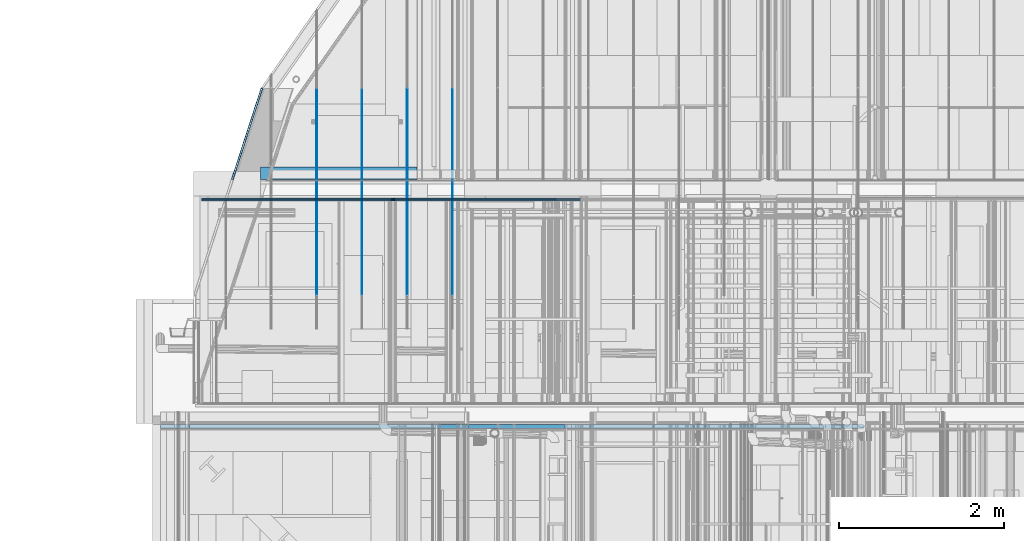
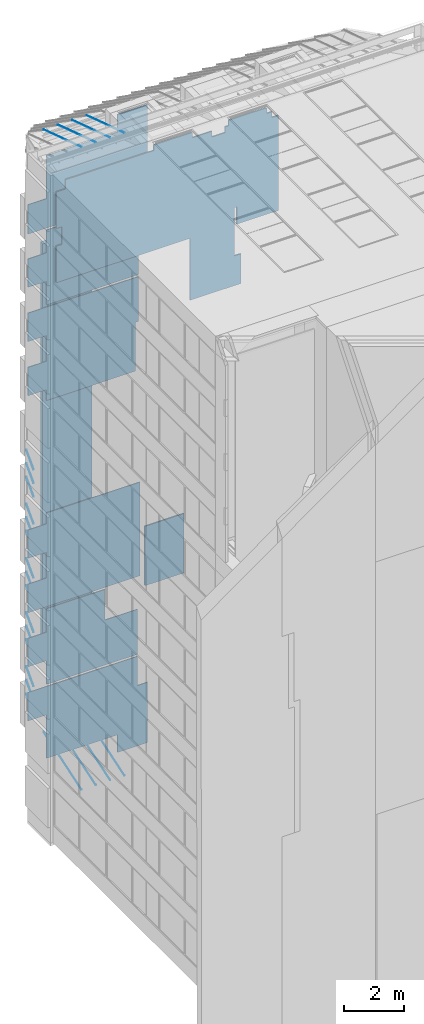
# One storey, part 263 of 583: 38 slabs.
"""IFC2X3 building model written with IfcOpenShell, lengths in metres."""

import ifcopenshell
import ifcopenshell.guid

model = None  # the IFC model being written
_history = None  # IfcOwnerHistory: only IFC2X3 demands one
_inside = {}  # id of a spatial element -> (the spatial element, [elements in it])
_under = {}  # id of a project, library or spatial element -> (it, [spatial elements below it])
_declared = {}  # id of a project -> (the project, [libraries it declares])
_typed = {}  # id of a type object -> (the type object, [elements of that type])
_made_of = {}  # id of a material, layer set ... -> (it, [elements and type objects made of it])


def new_model(schema):
    """Start an empty IFC model of exactly this schema.

    Asked for "IFC4X3", IfcOpenShell would pick the latest addendum, in which some entities
    have other attributes; the version numbers below select the first issue.
    IFC2X3 requires an IfcOwnerHistory on every rooted entity: one is made here for all.
    """
    global model, _history
    if schema == "IFC4X3":
        model = ifcopenshell.file(schema_version=(4, 3, 0, 0))
    else:
        model = ifcopenshell.file(schema=schema)
    _inside.clear()
    _under.clear()
    _declared.clear()
    _typed.clear()
    _made_of.clear()
    _history = None
    if model.schema == "IFC2X3":
        org = make("IfcOrganization", Name="unknown")
        user = make(
            "IfcPersonAndOrganization",
            ThePerson=make("IfcPerson", FamilyName="unknown"),
            TheOrganization=org,
        )
        app = make(
            "IfcApplication",
            ApplicationDeveloper=org,
            Version="unknown",
            ApplicationFullName="unknown",
            ApplicationIdentifier="unknown",
        )
        _history = make(
            "IfcOwnerHistory",
            OwningUser=user,
            OwningApplication=app,
            ChangeAction="ADDED",
            CreationDate=0,
        )
    return model


def make(cls, **values):
    """One entity of the class cls with the attributes given. An attribute that is None is left unset."""
    return model.create_entity(
        cls, **{name: value for name, value in values.items() if value is not None}
    )


def entity(cls, *values):
    """Any entity or typed value of the class cls, its attributes in the order of the schema. None: left unset."""
    e = model.create_entity(cls)
    for i, value in enumerate(values):
        if value is not None:
            e[i] = value
    return e


def rooted(cls, **values):
    """An entity with a GlobalId (a new one), such as an element, a storey or a relation."""
    return make(cls, GlobalId=ifcopenshell.guid.new(), OwnerHistory=_history, **values)


def si_unit(unit_type, name, prefix=None):
    """IfcSIUnit, for example si_unit("LENGTHUNIT", "METRE", prefix="MILLI")."""
    return make("IfcSIUnit", UnitType=unit_type, Prefix=prefix, Name=name)


def converted_unit(unit_type, name, factor, base, dimensions=None, offset=None):
    """IfcConversionBasedUnit, such as the inch: factor (a typed value) times the base unit."""
    return make(
        "IfcConversionBasedUnit"
        if offset is None
        else "IfcConversionBasedUnitWithOffset",
        ConversionOffset=offset,
        Dimensions=None
        if dimensions is None
        else entity("IfcDimensionalExponents", *dimensions),
        UnitType=unit_type,
        Name=name,
        ConversionFactor=make(
            "IfcMeasureWithUnit", ValueComponent=factor, UnitComponent=base
        ),
    )


def derived_unit(unit_type, elements):
    """IfcDerivedUnit: a product of units, each with its exponent."""
    return make(
        "IfcDerivedUnit",
        Elements=[
            make("IfcDerivedUnitElement", Unit=unit, Exponent=power)
            for unit, power in elements
        ],
        UnitType=unit_type,
    )


def money_unit(currency):
    """IfcMonetaryUnit."""
    return make("IfcMonetaryUnit", Currency=currency)


def assignment(units):
    """IfcUnitAssignment: the units of a project."""
    return None if units is None else make("IfcUnitAssignment", Units=units)


def point(xyz):
    """IfcCartesianPoint."""
    return None if xyz is None else make("IfcCartesianPoint", Coordinates=xyz)


def direction(xyz):
    """IfcDirection."""
    return None if xyz is None else make("IfcDirection", DirectionRatios=xyz)


def frame(location, z_axis=None, x_axis=None):
    """IfcAxis2Placement3D, a coordinate frame: its origin and axes. An axis left out is left unset."""
    return make(
        "IfcAxis2Placement3D",
        Location=point(location),
        Axis=direction(z_axis),
        RefDirection=direction(x_axis),
    )


def origin_with_axes():
    """The frame at (0, 0, 0) with the z axis (0, 0, 1) and the x axis (1, 0, 0) written out."""
    return frame((0.0, 0.0, 0.0), z_axis=(0.0, 0.0, 1.0), x_axis=(1.0, 0.0, 0.0))


def place(relative_to, where):
    """IfcLocalPlacement: puts the frame where relative to a parent placement (None: the world)."""
    return make(
        "IfcLocalPlacement", PlacementRelTo=relative_to, RelativePlacement=where
    )


def context(
    kind, dimensions, precision=None, world=None, true_north=None, identifier=None
):
    """IfcGeometricRepresentationContext, for example the 3D "Model" context."""
    return make(
        "IfcGeometricRepresentationContext",
        ContextIdentifier=identifier,
        ContextType=kind,
        CoordinateSpaceDimension=dimensions,
        Precision=precision,
        WorldCoordinateSystem=world,
        TrueNorth=true_north,
    )


def subcontext(parent, identifier, kind, view, scale=None):
    """IfcGeometricRepresentationSubContext, for example "Body" below "Model"."""
    return make(
        "IfcGeometricRepresentationSubContext",
        ContextIdentifier=identifier,
        ContextType=kind,
        ParentContext=parent,
        TargetScale=scale,
        TargetView=view,
    )


def project(units=None, contexts=None):
    """IfcProject with its units and contexts."""
    return rooted(
        "IfcProject",
        Name="project",
        RepresentationContexts=contexts,
        UnitsInContext=assignment(units),
    )


def spatial(cls, under=None, at=None, **own):
    """A site, building, storey or space (cls), placed at a placement, below another one or the project."""
    s = rooted(cls, ObjectPlacement=at, **own)
    if under is not None:
        _under.setdefault(under.id(), (under, []))[1].append(s)
    return s


def faces_of(points, faces, orient=None, outer=None):
    """IfcFace entities. A face is a list of loops; a loop is a list of indices into points, from 0.

    orient and outer hold one flag for each loop. By default every Orientation is true, the
    first loop of a face is its IfcFaceOuterBound and the others are IfcFaceBound.
    """
    made = []
    for i, loops in enumerate(faces):
        bounds = []
        for j, loop in enumerate(loops):
            is_outer = j == 0 if outer is None else outer[i][j]
            bounds.append(
                make(
                    "IfcFaceOuterBound" if is_outer else "IfcFaceBound",
                    Bound=make("IfcPolyLoop", Polygon=[points[k] for k in loop]),
                    Orientation=True if orient is None else orient[i][j],
                )
            )
        made.append(make("IfcFace", Bounds=bounds))
    return made


def faceted_brep(points, faces, orient=None, outer=None, voids=None):
    """IfcFacetedBrep: a solid bounded by flat faces; with voids (closed shells), ...WithVoids."""
    shared = [point(p) for p in points]
    hull = make("IfcClosedShell", CfsFaces=faces_of(shared, faces, orient, outer))
    if voids is None:
        return make("IfcFacetedBrep", Outer=hull)
    return make(
        "IfcFacetedBrepWithVoids",
        Outer=hull,
        Voids=[
            make(cls, CfsFaces=faces_of(shared, fs, o, b)) for cls, fs, o, b in voids
        ],
    )


def shape(context_of_items, identifier, shape_type, items):
    """IfcShapeRepresentation: the items that make up one representation, for example the "Body"."""
    return make(
        "IfcShapeRepresentation",
        ContextOfItems=context_of_items,
        RepresentationIdentifier=identifier,
        RepresentationType=shape_type,
        Items=items,
    )


def material(Name=None, Category=None):
    """IfcMaterial."""
    return make("IfcMaterial", Name=Name, Category=Category)


def made_of(thing, what):
    """Note that an element or type object is made of a material, layer set ...; save() writes the relation."""
    if what is not None:
        _made_of.setdefault(what.id(), (what, []))[1].append(thing)
    return thing


def type_object(cls, material=None, **own):
    """A type object (cls), such as IfcWallType, which elements share."""
    return made_of(rooted(cls, **own), material)


def element(
    cls,
    number,
    at=None,
    inside=None,
    cuts=None,
    type_object=None,
    material=None,
    context=None,
    identifier="Body",
    shape_type=None,
    held_by="IfcProductDefinitionShape",
    body=None,
    shapes=None,
    **own,
):
    """One element of the class cls, such as IfcWall. Its Tag is "e" and its number.

    at: its placement. inside: the storey or other place that contains it. cuts: it is an
    opening in that element (IfcRelVoidsElement). A single representation is given by context,
    identifier, shape_type and body (its items); several are given by shapes. held_by: the class
    of the entity that holds the representations. save() writes the other relations.
    """
    e = rooted(cls, Tag="e%d" % number, ObjectPlacement=at, **own)
    if body is not None:
        shapes = [shape(context, identifier, shape_type, body)]
    if shapes is not None:
        e.Representation = make(held_by, Representations=shapes)
    if inside is not None:
        _inside.setdefault(inside.id(), (inside, []))[1].append(e)
    if cuts is not None:
        rooted(
            "IfcRelVoidsElement", RelatingBuildingElement=cuts, RelatedOpeningElement=e
        )
    if type_object is not None:
        _typed.setdefault(type_object.id(), (type_object, []))[1].append(e)
    return made_of(e, material)


def aggregate(whole, parts):
    """IfcRelAggregates: a whole, such as a stair, and the parts it consists of."""
    return rooted("IfcRelAggregates", RelatingObject=whole, RelatedObjects=parts)


def save(model, path):
    """Write the relations noted so far, then the file.

    IfcRelAggregates (storeys below a building ...), IfcRelContainedInSpatialStructure (elements
    in a storey), IfcRelDefinesByType, IfcRelAssociatesMaterial and IfcRelDeclares: one each for
    every whole, place, type object, material and project.
    """
    for whole, parts in _under.values():
        aggregate(whole, parts)
    for where, things in _inside.values():
        rooted(
            "IfcRelContainedInSpatialStructure",
            RelatedElements=things,
            RelatingStructure=where,
        )
    for kind, things in _typed.values():
        rooted("IfcRelDefinesByType", RelatedObjects=things, RelatingType=kind)
    for what, things in _made_of.values():
        rooted("IfcRelAssociatesMaterial", RelatedObjects=things, RelatingMaterial=what)
    for by, libraries in _declared.values():
        rooted("IfcRelDeclares", RelatingContext=by, RelatedDefinitions=libraries)
    model.write(path)


model = new_model("IFC2X3")

# Units and contexts
model_context = context("Model", 3, precision=1e-05, world=origin_with_axes(), true_north=direction((0.0, 1.0)))
body_context = subcontext(model_context, "Body", "Model", "MODEL_VIEW", scale=1.0)
ifc_project = project(units=[si_unit("LENGTHUNIT", "METRE"), si_unit("AREAUNIT", "SQUARE_METRE"), si_unit("VOLUMEUNIT", "CUBIC_METRE"), si_unit("ABSORBEDDOSEUNIT", "GRAY"), si_unit("AMOUNTOFSUBSTANCEUNIT", "MOLE"), si_unit("DOSEEQUIVALENTUNIT", "SIEVERT"), si_unit("ELECTRICCAPACITANCEUNIT", "FARAD"), si_unit("ELECTRICCHARGEUNIT", "COULOMB"), si_unit("ELECTRICCONDUCTANCEUNIT", "SIEMENS"), si_unit("ELECTRICCURRENTUNIT", "AMPERE"), si_unit("ELECTRICRESISTANCEUNIT", "OHM"), si_unit("ELECTRICVOLTAGEUNIT", "VOLT"), si_unit("ENERGYUNIT", "JOULE"), si_unit("FORCEUNIT", "NEWTON"), si_unit("FREQUENCYUNIT", "HERTZ"), si_unit("ILLUMINANCEUNIT", "LUX"), si_unit("INDUCTANCEUNIT", "HENRY"), si_unit("LUMINOUSFLUXUNIT", "LUMEN"), si_unit("LUMINOUSINTENSITYUNIT", "CANDELA"), si_unit("MAGNETICFLUXDENSITYUNIT", "TESLA"), si_unit("MAGNETICFLUXUNIT", "WEBER"), si_unit("MASSUNIT", "GRAM"), converted_unit("PLANEANGLEUNIT", "degree", entity("IfcReal", 0.0174532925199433), si_unit("PLANEANGLEUNIT", "RADIAN"), dimensions=[0, 0, 0, 0, 0, 0, 0]), si_unit("POWERUNIT", "WATT"), si_unit("PRESSUREUNIT", "PASCAL"), si_unit("RADIOACTIVITYUNIT", "BECQUEREL"), si_unit("SOLIDANGLEUNIT", "STERADIAN"), si_unit("THERMODYNAMICTEMPERATUREUNIT", "KELVIN"), si_unit("TIMEUNIT", "SECOND"), derived_unit("ACCELERATIONUNIT", [(si_unit("LENGTHUNIT", "METRE"), 1), (si_unit("TIMEUNIT", "SECOND"), -2)]), derived_unit("ANGULARVELOCITYUNIT", [(converted_unit("PLANEANGLEUNIT", "degree", entity("IfcReal", 0.0174532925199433), si_unit("PLANEANGLEUNIT", "RADIAN"), dimensions=[0, 0, 0, 0, 0, 0, 0]), 1), (si_unit("TIMEUNIT", "SECOND"), -1)]), derived_unit("CURVATUREUNIT", [(converted_unit("PLANEANGLEUNIT", "degree", entity("IfcReal", 0.0174532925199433), si_unit("PLANEANGLEUNIT", "RADIAN"), dimensions=[0, 0, 0, 0, 0, 0, 0]), 1), (si_unit("LENGTHUNIT", "METRE"), -1)]), derived_unit("DYNAMICVISCOSITYUNIT", [(si_unit("PRESSUREUNIT", "PASCAL"), 1), (si_unit("TIMEUNIT", "SECOND"), 1)]), derived_unit("HEATFLUXDENSITYUNIT", [(si_unit("POWERUNIT", "WATT"), 1), (si_unit("LENGTHUNIT", "METRE"), -2)]), derived_unit("HEATINGVALUEUNIT", [(si_unit("ENERGYUNIT", "JOULE"), 1), (si_unit("MASSUNIT", "GRAM"), -1)]), derived_unit("INTEGERCOUNTRATEUNIT", [(si_unit("TIMEUNIT", "SECOND"), -1)]), derived_unit("IONCONCENTRATIONUNIT", [(si_unit("MASSUNIT", "GRAM"), 1), (si_unit("VOLUMEUNIT", "CUBIC_METRE"), -1)]), derived_unit("ISOTHERMALMOISTURECAPACITYUNIT", [(si_unit("VOLUMEUNIT", "CUBIC_METRE"), 1), (si_unit("MASSUNIT", "GRAM"), -1)]), derived_unit("KINEMATICVISCOSITYUNIT", [(si_unit("AREAUNIT", "SQUARE_METRE"), 1), (si_unit("TIMEUNIT", "SECOND"), -1)]), derived_unit("LINEARFORCEUNIT", [(si_unit("FORCEUNIT", "NEWTON"), 1), (si_unit("LENGTHUNIT", "METRE"), -1)]), derived_unit("LINEARMOMENTUNIT", [(si_unit("FORCEUNIT", "NEWTON"), 1), (si_unit("LENGTHUNIT", "METRE"), -1)]), derived_unit("LINEARSTIFFNESSUNIT", [(si_unit("FORCEUNIT", "NEWTON"), 1), (si_unit("LENGTHUNIT", "METRE"), -1)]), derived_unit("LINEARVELOCITYUNIT", [(si_unit("LENGTHUNIT", "METRE"), 1), (si_unit("TIMEUNIT", "SECOND"), -1)]), derived_unit("LUMINOUSINTENSITYDISTRIBUTIONUNIT", [(si_unit("LUMINOUSINTENSITYUNIT", "CANDELA"), 1), (si_unit("LUMINOUSFLUXUNIT", "LUMEN"), -1)]), derived_unit("MASSDENSITYUNIT", [(si_unit("MASSUNIT", "GRAM"), 1), (si_unit("VOLUMEUNIT", "CUBIC_METRE"), -1)]), derived_unit("MASSFLOWRATEUNIT", [(si_unit("MASSUNIT", "GRAM"), 1), (si_unit("TIMEUNIT", "SECOND"), -1)]), derived_unit("MASSPERLENGTHUNIT", [(si_unit("MASSUNIT", "GRAM"), 1), (si_unit("LENGTHUNIT", "METRE"), -1)]), derived_unit("MODULUSOFELASTICITYUNIT", [(si_unit("FORCEUNIT", "NEWTON"), 1), (si_unit("AREAUNIT", "SQUARE_METRE"), -1)]), derived_unit("MODULUSOFLINEARSUBGRADEREACTIONUNIT", [(si_unit("FORCEUNIT", "NEWTON"), 1), (si_unit("LENGTHUNIT", "METRE"), -2)]), derived_unit("MODULUSOFROTATIONALSUBGRADEREACTIONUNIT", [(si_unit("FORCEUNIT", "NEWTON"), 1), (si_unit("LENGTHUNIT", "METRE"), 1)]), derived_unit("MODULUSOFSUBGRADEREACTIONUNIT", [(si_unit("FORCEUNIT", "NEWTON"), 1), (si_unit("VOLUMEUNIT", "CUBIC_METRE"), -1)]), derived_unit("MOISTUREDIFFUSIVITYUNIT", [(si_unit("VOLUMEUNIT", "CUBIC_METRE"), 1), (si_unit("TIMEUNIT", "SECOND"), -1)]), derived_unit("MOLECULARWEIGHTUNIT", [(si_unit("MASSUNIT", "GRAM"), 1), (si_unit("AMOUNTOFSUBSTANCEUNIT", "MOLE"), -1)]), derived_unit("PLANARFORCEUNIT", [(si_unit("FORCEUNIT", "NEWTON"), 1), (si_unit("LENGTHUNIT", "METRE"), -2)]), derived_unit("ROTATIONALFREQUENCYUNIT", [(si_unit("TIMEUNIT", "SECOND"), -1)]), derived_unit("ROTATIONALMASSUNIT", [(si_unit("MASSUNIT", "GRAM"), 1), (si_unit("LENGTHUNIT", "METRE"), 2)]), derived_unit("ROTATIONALSTIFFNESSUNIT", [(si_unit("FORCEUNIT", "NEWTON"), 1), (si_unit("LENGTHUNIT", "METRE"), 1), (converted_unit("PLANEANGLEUNIT", "degree", entity("IfcReal", 0.0174532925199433), si_unit("PLANEANGLEUNIT", "RADIAN"), dimensions=[0, 0, 0, 0, 0, 0, 0]), -1)]), derived_unit("SECTIONAREAINTEGRALUNIT", [(si_unit("LENGTHUNIT", "METRE"), 5)]), derived_unit("SECTIONMODULUSUNIT", [(si_unit("LENGTHUNIT", "METRE"), 3)]), derived_unit("SHEARMODULUSUNIT", [(si_unit("FORCEUNIT", "NEWTON"), 1), (si_unit("AREAUNIT", "SQUARE_METRE"), -1)]), derived_unit("SOUNDPOWERUNIT", [(si_unit("ENERGYUNIT", "JOULE"), 1), (si_unit("TIMEUNIT", "SECOND"), -1)]), derived_unit("SPECIFICHEATCAPACITYUNIT", [(si_unit("FORCEUNIT", "NEWTON"), 1), (si_unit("MASSUNIT", "GRAM"), -1), (si_unit("THERMODYNAMICTEMPERATUREUNIT", "KELVIN"), -1)]), derived_unit("TEMPERATUREGRADIENTUNIT", [(si_unit("THERMODYNAMICTEMPERATUREUNIT", "KELVIN"), 1), (si_unit("LENGTHUNIT", "METRE"), -1)]), derived_unit("THERMALADMITTANCEUNIT", [(si_unit("POWERUNIT", "WATT"), 1), (si_unit("AREAUNIT", "SQUARE_METRE"), -1), (si_unit("THERMODYNAMICTEMPERATUREUNIT", "KELVIN"), -1)]), derived_unit("THERMALCONDUCTANCEUNIT", [(si_unit("POWERUNIT", "WATT"), 1), (si_unit("LENGTHUNIT", "METRE"), -1), (si_unit("THERMODYNAMICTEMPERATUREUNIT", "KELVIN"), -1)]), derived_unit("THERMALEXPANSIONCOEFFICIENTUNIT", [(si_unit("THERMODYNAMICTEMPERATUREUNIT", "KELVIN"), -1)]), derived_unit("THERMALRESISTANCEUNIT", [(si_unit("AREAUNIT", "SQUARE_METRE"), 1), (si_unit("POWERUNIT", "WATT"), -1)]), derived_unit("THERMALTRANSMITTANCEUNIT", [(si_unit("POWERUNIT", "WATT"), 1), (si_unit("AREAUNIT", "SQUARE_METRE"), -1), (si_unit("THERMODYNAMICTEMPERATUREUNIT", "KELVIN"), -1)]), derived_unit("TORQUEUNIT", [(si_unit("FORCEUNIT", "NEWTON"), 1), (si_unit("LENGTHUNIT", "METRE"), 1)]), derived_unit("VAPORPERMEABILITYUNIT", [(si_unit("MASSUNIT", "GRAM"), 1), (si_unit("TIMEUNIT", "SECOND"), -1)]), derived_unit("VOLUMETRICFLOWRATEUNIT", [(si_unit("VOLUMEUNIT", "CUBIC_METRE"), 1), (si_unit("TIMEUNIT", "SECOND"), -1)]), derived_unit("WARPINGCONSTANTUNIT", [(si_unit("LENGTHUNIT", "METRE"), 6)]), derived_unit("WARPINGMOMENTUNIT", [(si_unit("FORCEUNIT", "NEWTON"), 1), (si_unit("LENGTHUNIT", "METRE"), 2)]), money_unit("GBP")], contexts=[model_context])

# Site, building, storey
site_placement = place(None, origin_with_axes())
site = spatial("IfcSite", under=ifc_project, at=site_placement, Name="Site", CompositionType="ELEMENT")
building_placement = place(site_placement, origin_with_axes())
building = spatial("IfcBuilding", under=site, at=building_placement, Name="Building01", CompositionType="ELEMENT")
storey_placement = place(building_placement, frame((0.0, 0.0, 20.78), z_axis=(0.0, 0.0, 1.0), x_axis=(1.0, 0.0, 0.0)))
storey = spatial("IfcBuildingStorey", under=building, at=storey_placement, Name="RL", CompositionType="ELEMENT", Elevation=20.78)

# Slabs
ifc_material_1 = material(Name="A_BSUK_CeilingSoffitFinishes_Suspended")
slab_type_1 = type_object("IfcSlabType", Name="A-FloorsSlabs A_BSUK_Slabs", PredefinedType="FLOOR")
placement = place(storey_placement, frame((0.0, 0.0, -20.78), z_axis=(0.0, 0.0, 1.0), x_axis=(1.0, 0.0, 0.0)))
element("IfcSlab", 1, at=placement, inside=storey, type_object=slab_type_1, material=ifc_material_1, Name="A-FloorsSlabs A_BSUK_Slabs", ObjectType="CompoundSlabLeaf", context=body_context, shape_type="Brep", body=[
    faceted_brep([(5.174915, 17.423, 23.79), (5.174915, 17.438, 23.79), (5.174915, 17.438, 26.380061), (5.174915, 17.423, 26.380061), (4.817, 17.423, 23.79), (4.817, 17.438, 23.79), (4.817, 17.423, 22.740024), (4.817, 17.438, 22.740024), (0.599939, 17.423, 22.740024), (0.599939, 17.438, 22.740024), (0.599939, 17.423, 23.930024), (0.599939, 17.438, 23.930024), (1.312402, 17.423, 23.930024), (1.312402, 17.438, 23.930024), (1.312402, 17.423, 25.667598), (1.312402, 17.438, 25.667598), (4.024964, 17.423, 25.667598), (4.024964, 17.438, 25.667598), (4.024964, 17.423, 26.380061), (4.024964, 17.438, 26.380061)], [[[0, 1, 2, 3]], [[4, 5, 1, 0]], [[6, 7, 5, 4]], [[8, 9, 7, 6]], [[10, 11, 9, 8]], [[12, 13, 11, 10]], [[14, 15, 13, 12]], [[16, 17, 15, 14]], [[18, 19, 17, 16]], [[3, 2, 19, 18]], [[1, 5, 7, 9, 11, 13, 15, 17, 19, 2]], [[3, 18, 16, 14, 12, 10, 8, 6, 4, 0]]]),
])
element("IfcSlab", 2, at=placement, inside=storey, type_object=slab_type_1, material=ifc_material_1, Name="A-FloorsSlabs A_BSUK_Slabs", ObjectType="CompoundSlabLeaf", context=body_context, shape_type="Brep", body=[
    faceted_brep([(4.817, 17.423, 22.660024), (4.817, 17.438, 22.660024), (1.312402, 17.438, 22.660024), (1.312402, 17.423, 22.660024), (4.817, 17.423, 19.629976), (4.817, 17.438, 19.629976), (1.312402, 17.423, 19.629976), (1.312402, 17.438, 19.629976), (1.312402, 17.423, 20.590024), (1.312402, 17.438, 20.590024), (0.599939, 17.423, 20.590024), (0.599939, 17.438, 20.590024), (0.599939, 17.423, 21.739976), (0.599939, 17.438, 21.739976), (1.312402, 17.423, 21.739976), (1.312402, 17.438, 21.739976)], [[[0, 1, 2, 3]], [[4, 5, 1, 0]], [[6, 7, 5, 4]], [[8, 9, 7, 6]], [[10, 11, 9, 8]], [[12, 13, 11, 10]], [[14, 15, 13, 12]], [[3, 2, 15, 14]], [[1, 5, 7, 9, 11, 13, 15, 2]], [[3, 14, 12, 10, 8, 6, 4, 0]]]),
])
element("IfcSlab", 3, at=placement, inside=storey, type_object=slab_type_1, material=ifc_material_1, Name="A-FloorsSlabs A_BSUK_Slabs", ObjectType="CompoundSlabLeaf", context=body_context, shape_type="Brep", body=[
    faceted_brep([(4.817, 17.423, 19.549976), (4.817, 17.438, 19.549976), (0.599939, 17.438, 19.549976), (0.599939, 17.423, 19.549976), (4.817, 17.423, 17.73844), (4.817, 17.438, 17.73844), (4.717, 17.423, 17.73844), (4.717, 17.438, 17.73844), (4.717, 17.423, 15.77), (4.717, 17.438, 15.77), (1.31, 17.423, 15.77), (1.31, 17.438, 15.77), (1.31, 17.423, 16.210024), (1.31, 17.438, 16.210024), (0.599939, 17.423, 16.210024), (0.599939, 17.438, 16.210024), (0.599939, 17.423, 17.359976), (0.599939, 17.438, 17.359976), (1.312402, 17.423, 17.359976), (1.312402, 17.438, 17.359976), (1.312402, 17.423, 18.400024), (1.312402, 17.438, 18.400024), (0.599939, 17.423, 18.400024), (0.599939, 17.438, 18.400024)], [[[0, 1, 2, 3]], [[4, 5, 1, 0]], [[6, 7, 5, 4]], [[8, 9, 7, 6]], [[10, 11, 9, 8]], [[12, 13, 11, 10]], [[14, 15, 13, 12]], [[16, 17, 15, 14]], [[18, 19, 17, 16]], [[20, 21, 19, 18]], [[22, 23, 21, 20]], [[3, 2, 23, 22]], [[1, 5, 7, 9, 11, 13, 15, 17, 19, 21, 23, 2]], [[3, 22, 20, 18, 16, 14, 12, 10, 8, 6, 4, 0]]]),
])
element("IfcSlab", 4, at=placement, inside=storey, type_object=slab_type_1, material=ifc_material_1, Name="A-FloorsSlabs A_BSUK_Slabs", ObjectType="CompoundSlabLeaf", context=body_context, shape_type="Brep", body=[
    faceted_brep([(4.88, 17.423, 7.439998), (4.88, 17.438, 7.439998), (4.88, 17.438, 11.23), (4.88, 17.423, 11.23), (0.599916, 17.423, 7.439911), (0.599916, 17.438, 7.439911), (0.599939, 17.423, 8.599976), (0.599939, 17.438, 8.599976), (1.312402, 17.423, 8.599976), (1.312402, 17.438, 8.599976), (1.312402, 17.423, 9.640024), (1.312402, 17.438, 9.640024), (0.599939, 17.423, 9.640024), (0.599939, 17.438, 9.640024), (0.599939, 17.423, 10.790024), (0.599939, 17.438, 10.790024), (1.31, 17.423, 10.790024), (1.31, 17.438, 10.790024), (1.31, 17.423, 11.23), (1.31, 17.438, 11.23)], [[[0, 1, 2, 3]], [[4, 5, 1, 0]], [[6, 7, 5, 4]], [[8, 9, 7, 6]], [[10, 11, 9, 8]], [[12, 13, 11, 10]], [[14, 15, 13, 12]], [[16, 17, 15, 14]], [[18, 19, 17, 16]], [[3, 2, 19, 18]], [[1, 5, 7, 9, 11, 13, 15, 17, 19, 2]], [[3, 18, 16, 14, 12, 10, 8, 6, 4, 0]]]),
])
element("IfcSlab", 5, at=placement, inside=storey, type_object=slab_type_1, material=ifc_material_1, Name="A-FloorsSlabs A_BSUK_Slabs", ObjectType="CompoundSlabLeaf", context=body_context, shape_type="Brep", body=[
    faceted_brep([(3.539939, 17.423, 7.36), (3.539939, 17.438, 7.36), (1.312402, 17.438, 7.36), (1.312402, 17.423, 7.36), (3.539939, 17.423, 6.120098), (3.539939, 17.438, 6.120098), (4.779939, 17.423, 6.120098), (4.779939, 17.438, 6.120098), (4.779939, 17.423, 4.299976), (4.779939, 17.438, 4.299976), (1.312402, 17.423, 4.299976), (1.312402, 17.438, 4.299976), (1.312402, 17.423, 5.260024), (1.312402, 17.438, 5.260024), (0.599939, 17.423, 5.260024), (0.599939, 17.438, 5.260024), (0.599939, 17.423, 6.409976), (0.599939, 17.438, 6.409976), (1.312402, 17.423, 6.409976), (1.312402, 17.438, 6.409976)], [[[0, 1, 2, 3]], [[4, 5, 1, 0]], [[6, 7, 5, 4]], [[8, 9, 7, 6]], [[10, 11, 9, 8]], [[12, 13, 11, 10]], [[14, 15, 13, 12]], [[16, 17, 15, 14]], [[18, 19, 17, 16]], [[3, 2, 19, 18]], [[1, 5, 7, 9, 11, 13, 15, 17, 19, 2]], [[3, 18, 16, 14, 12, 10, 8, 6, 4, 0]]]),
])
element("IfcSlab", 6, at=placement, inside=storey, type_object=slab_type_1, material=ifc_material_1, Name="A-FloorsSlabs A_BSUK_Slabs", ObjectType="CompoundSlabLeaf", context=body_context, shape_type="Brep", body=[
    faceted_brep([(4.779939, 17.423, 4.219976), (4.779939, 17.438, 4.219976), (0.599939, 17.438, 4.219976), (0.599939, 17.423, 4.219976), (4.779939, 17.423, 3.039976), (4.779939, 17.438, 3.039976), (5.174915, 17.423, 3.039976), (5.174915, 17.438, 3.039976), (5.174915, 17.423, 0.599939), (5.174915, 17.438, 0.599939), (4.024964, 17.423, 0.599939), (4.024964, 17.438, 0.599939), (4.024964, 17.423, 1.312402), (4.024964, 17.438, 1.312402), (1.312402, 17.423, 1.312402), (1.312402, 17.438, 1.312402), (1.312402, 17.423, 3.070024), (1.312402, 17.438, 3.070024), (0.599939, 17.423, 3.070024), (0.599939, 17.438, 3.070024)], [[[0, 1, 2, 3]], [[4, 5, 1, 0]], [[6, 7, 5, 4]], [[8, 9, 7, 6]], [[10, 11, 9, 8]], [[12, 13, 11, 10]], [[14, 15, 13, 12]], [[16, 17, 15, 14]], [[18, 19, 17, 16]], [[3, 2, 19, 18]], [[1, 5, 7, 9, 11, 13, 15, 17, 19, 2]], [[3, 18, 16, 14, 12, 10, 8, 6, 4, 0]]]),
])
element("IfcSlab", 7, at=placement, inside=storey, type_object=slab_type_1, material=ifc_material_1, Name="A-FloorsSlabs A_BSUK_Slabs", ObjectType="CompoundSlabLeaf", context=body_context, shape_type="Brep", body=[
    faceted_brep([(5.174915, 17.438, 23.79), (5.174915, 17.453, 23.79), (5.174915, 17.453, 26.380061), (5.174915, 17.438, 26.380061), (4.817, 17.438, 23.79), (4.817, 17.453, 23.79), (4.817, 17.438, 22.740024), (4.817, 17.453, 22.740024), (0.599939, 17.438, 22.740024), (0.599939, 17.453, 22.740024), (0.599939, 17.438, 23.930024), (0.599939, 17.453, 23.930024), (1.312402, 17.438, 23.930024), (1.312402, 17.453, 23.930024), (1.312402, 17.438, 25.667598), (1.312402, 17.453, 25.667598), (4.024964, 17.438, 25.667598), (4.024964, 17.453, 25.667598), (4.024964, 17.438, 26.380061), (4.024964, 17.453, 26.380061)], [[[0, 1, 2, 3]], [[4, 5, 1, 0]], [[6, 7, 5, 4]], [[8, 9, 7, 6]], [[10, 11, 9, 8]], [[12, 13, 11, 10]], [[14, 15, 13, 12]], [[16, 17, 15, 14]], [[18, 19, 17, 16]], [[3, 2, 19, 18]], [[1, 5, 7, 9, 11, 13, 15, 17, 19, 2]], [[3, 18, 16, 14, 12, 10, 8, 6, 4, 0]]]),
])
element("IfcSlab", 8, at=placement, inside=storey, type_object=slab_type_1, material=ifc_material_1, Name="A-FloorsSlabs A_BSUK_Slabs", ObjectType="CompoundSlabLeaf", context=body_context, shape_type="Brep", body=[
    faceted_brep([(4.817, 17.438, 22.660024), (4.817, 17.453, 22.660024), (1.312402, 17.453, 22.660024), (1.312402, 17.438, 22.660024), (4.817, 17.438, 19.629976), (4.817, 17.453, 19.629976), (1.312402, 17.438, 19.629976), (1.312402, 17.453, 19.629976), (1.312402, 17.438, 20.590024), (1.312402, 17.453, 20.590024), (0.599939, 17.438, 20.590024), (0.599939, 17.453, 20.590024), (0.599939, 17.438, 21.739976), (0.599939, 17.453, 21.739976), (1.312402, 17.438, 21.739976), (1.312402, 17.453, 21.739976)], [[[0, 1, 2, 3]], [[4, 5, 1, 0]], [[6, 7, 5, 4]], [[8, 9, 7, 6]], [[10, 11, 9, 8]], [[12, 13, 11, 10]], [[14, 15, 13, 12]], [[3, 2, 15, 14]], [[1, 5, 7, 9, 11, 13, 15, 2]], [[3, 14, 12, 10, 8, 6, 4, 0]]]),
])
element("IfcSlab", 9, at=placement, inside=storey, type_object=slab_type_1, material=ifc_material_1, Name="A-FloorsSlabs A_BSUK_Slabs", ObjectType="CompoundSlabLeaf", context=body_context, shape_type="Brep", body=[
    faceted_brep([(4.817, 17.438, 19.549976), (4.817, 17.453, 19.549976), (0.599939, 17.453, 19.549976), (0.599939, 17.438, 19.549976), (4.817, 17.438, 17.73844), (4.817, 17.453, 17.73844), (4.717, 17.438, 17.73844), (4.717, 17.453, 17.73844), (4.717, 17.438, 15.77), (4.717, 17.453, 15.77), (1.31, 17.438, 15.77), (1.31, 17.453, 15.77), (1.31, 17.438, 16.210024), (1.31, 17.453, 16.210024), (0.599939, 17.438, 16.210024), (0.599939, 17.453, 16.210024), (0.599939, 17.438, 17.359976), (0.599939, 17.453, 17.359976), (1.312402, 17.438, 17.359976), (1.312402, 17.453, 17.359976), (1.312402, 17.438, 18.400024), (1.312402, 17.453, 18.400024), (0.599939, 17.438, 18.400024), (0.599939, 17.453, 18.400024)], [[[0, 1, 2, 3]], [[4, 5, 1, 0]], [[6, 7, 5, 4]], [[8, 9, 7, 6]], [[10, 11, 9, 8]], [[12, 13, 11, 10]], [[14, 15, 13, 12]], [[16, 17, 15, 14]], [[18, 19, 17, 16]], [[20, 21, 19, 18]], [[22, 23, 21, 20]], [[3, 2, 23, 22]], [[1, 5, 7, 9, 11, 13, 15, 17, 19, 21, 23, 2]], [[3, 22, 20, 18, 16, 14, 12, 10, 8, 6, 4, 0]]]),
])
element("IfcSlab", 10, at=placement, inside=storey, type_object=slab_type_1, material=ifc_material_1, Name="A-FloorsSlabs A_BSUK_Slabs", ObjectType="CompoundSlabLeaf", context=body_context, shape_type="Brep", body=[
    faceted_brep([(4.88, 17.438, 7.439998), (4.88, 17.453, 7.439998), (4.88, 17.453, 11.23), (4.88, 17.438, 11.23), (0.599916, 17.438, 7.439911), (0.599916, 17.453, 7.439911), (0.599939, 17.438, 8.599976), (0.599939, 17.453, 8.599976), (1.312402, 17.438, 8.599976), (1.312402, 17.453, 8.599976), (1.312402, 17.438, 9.640024), (1.312402, 17.453, 9.640024), (0.599939, 17.438, 9.640024), (0.599939, 17.453, 9.640024), (0.599939, 17.438, 10.790024), (0.599939, 17.453, 10.790024), (1.31, 17.438, 10.790024), (1.31, 17.453, 10.790024), (1.31, 17.438, 11.23), (1.31, 17.453, 11.23)], [[[0, 1, 2, 3]], [[4, 5, 1, 0]], [[6, 7, 5, 4]], [[8, 9, 7, 6]], [[10, 11, 9, 8]], [[12, 13, 11, 10]], [[14, 15, 13, 12]], [[16, 17, 15, 14]], [[18, 19, 17, 16]], [[3, 2, 19, 18]], [[1, 5, 7, 9, 11, 13, 15, 17, 19, 2]], [[3, 18, 16, 14, 12, 10, 8, 6, 4, 0]]]),
])
element("IfcSlab", 11, at=placement, inside=storey, type_object=slab_type_1, material=ifc_material_1, Name="A-FloorsSlabs A_BSUK_Slabs", ObjectType="CompoundSlabLeaf", context=body_context, shape_type="Brep", body=[
    faceted_brep([(3.539939, 17.438, 7.36), (3.539939, 17.453, 7.36), (1.312402, 17.453, 7.36), (1.312402, 17.438, 7.36), (3.539939, 17.438, 6.120098), (3.539939, 17.453, 6.120098), (4.779939, 17.438, 6.120098), (4.779939, 17.453, 6.120098), (4.779939, 17.438, 4.299976), (4.779939, 17.453, 4.299976), (1.312402, 17.438, 4.299976), (1.312402, 17.453, 4.299976), (1.312402, 17.438, 5.260024), (1.312402, 17.453, 5.260024), (0.599939, 17.438, 5.260024), (0.599939, 17.453, 5.260024), (0.599939, 17.438, 6.409976), (0.599939, 17.453, 6.409976), (1.312402, 17.438, 6.409976), (1.312402, 17.453, 6.409976)], [[[0, 1, 2, 3]], [[4, 5, 1, 0]], [[6, 7, 5, 4]], [[8, 9, 7, 6]], [[10, 11, 9, 8]], [[12, 13, 11, 10]], [[14, 15, 13, 12]], [[16, 17, 15, 14]], [[18, 19, 17, 16]], [[3, 2, 19, 18]], [[1, 5, 7, 9, 11, 13, 15, 17, 19, 2]], [[3, 18, 16, 14, 12, 10, 8, 6, 4, 0]]]),
])
element("IfcSlab", 12, at=placement, inside=storey, type_object=slab_type_1, material=ifc_material_1, Name="A-FloorsSlabs A_BSUK_Slabs", ObjectType="CompoundSlabLeaf", context=body_context, shape_type="Brep", body=[
    faceted_brep([(4.779939, 17.438, 4.219976), (4.779939, 17.453, 4.219976), (0.599939, 17.453, 4.219976), (0.599939, 17.438, 4.219976), (4.779939, 17.438, 3.039976), (4.779939, 17.453, 3.039976), (5.174915, 17.438, 3.039976), (5.174915, 17.453, 3.039976), (5.174915, 17.438, 0.599939), (5.174915, 17.453, 0.599939), (4.024964, 17.438, 0.599939), (4.024964, 17.453, 0.599939), (4.024964, 17.438, 1.312402), (4.024964, 17.453, 1.312402), (1.312402, 17.438, 1.312402), (1.312402, 17.453, 1.312402), (1.312402, 17.438, 3.070024), (1.312402, 17.453, 3.070024), (0.599939, 17.438, 3.070024), (0.599939, 17.453, 3.070024)], [[[0, 1, 2, 3]], [[4, 5, 1, 0]], [[6, 7, 5, 4]], [[8, 9, 7, 6]], [[10, 11, 9, 8]], [[12, 13, 11, 10]], [[14, 15, 13, 12]], [[16, 17, 15, 14]], [[18, 19, 17, 16]], [[3, 2, 19, 18]], [[1, 5, 7, 9, 11, 13, 15, 17, 19, 2]], [[3, 18, 16, 14, 12, 10, 8, 6, 4, 0]]]),
])
ifc_material_2 = material(Name="A_BSUK_Slabs")
element("IfcSlab", 13, at=placement, inside=storey, type_object=slab_type_1, material=ifc_material_2, Name="A-FloorsSlabs A_BSUK_Slabs", ObjectType="CompoundSlabLeaf", context=body_context, shape_type="Brep", body=[
    faceted_brep([(1.31, 17.68, 5.060045), (1.31, 17.83, 5.060045), (3.199939, 17.83, 5.060045), (3.199939, 17.68, 5.060045), (1.31, 17.68, 21.939976), (1.31, 17.83, 21.939976), (3.199939, 17.68, 21.939976), (3.199939, 17.83, 21.939976)], [[[0, 1, 2, 3]], [[4, 5, 1, 0]], [[6, 7, 5, 4]], [[3, 2, 7, 6]], [[1, 5, 7, 2]], [[3, 6, 4, 0]]]),
])
ifc_material_3 = material(Name="A_BSUK_Roofs")
for number, where, z_axis, x_axis, name in (
    (14, (0.52, 16.274427, -7.822476), (0.0, 1.0, 0.0), (0.0, 0.0, 1.0), "A-FloorsSlabs A_BSUK_Slabs"),
    (15, (0.52, 16.274427, -8.369976), (0.0, 1.0, 0.0), (0.0, 0.0, 1.0), "A-FloorsSlabs A_BSUK_Slabs"),
    (16, (0.52, 16.274427, -8.917476), (0.0, 1.0, 0.0), (0.0, 0.0, 1.0), "A-FloorsSlabs A_BSUK_Slabs"),
    (17, (0.52, 16.274427, -10.012476), (0.0, 1.0, 0.0), (0.0, 0.0, 1.0), "A-FloorsSlabs A_BSUK_Slabs"),
    (18, (0.52, 16.274427, -10.559976), (0.0, 1.0, 0.0), (0.0, 0.0, 1.0), "A-FloorsSlabs A_BSUK_Slabs"),
    (19, (0.52, 16.274427, -11.107476), (0.0, 1.0, 0.0), (0.0, 0.0, 1.0), "A-FloorsSlabs A_BSUK_Slabs"),
    (20, (0.52, 16.274427, -12.202476), (0.0, 1.0, 0.0), (0.0, 0.0, 1.0), "A-FloorsSlabs A_BSUK_Slabs"),
    (21, (0.52, 16.274427, -12.749976), (0.0, 1.0, 0.0), (0.0, 0.0, 1.0), "A-FloorsSlabs A_BSUK_Slabs"),
    (22, (0.52, 16.274427, -13.297476), (0.0, 1.0, 0.0), (0.0, 0.0, 1.0), "A-FloorsSlabs A_BSUK_Slabs"),
    (23, (0.52, 16.274427, -14.392476), (0.0, 1.0, 0.0), (0.0, 0.0, 1.0), "A-FloorsSlabs A_BSUK_Slabs"),
    (24, (0.52, 16.274427, -14.939976), (0.0, 1.0, 0.0), (0.0, 0.0, 1.0), "A-FloorsSlabs A_BSUK_Slabs"),
    (25, (0.52, 16.274427, -15.487476), (0.0, 1.0, 0.0), (0.0, 0.0, 1.0), "A-FloorsSlabs A_BSUK_Slabs"),
    (26, (0.52, 16.274427, -16.582476), (0.0, 1.0, 0.0), (0.0, 0.0, 1.0), "A-FloorsSlabs A_BSUK_Slabs"),
    (27, (0.52, 16.274427, -17.129976), (0.0, 1.0, 0.0), (0.0, 0.0, 1.0), "A-FloorsSlabs A_BSUK_Slabs"),
    (28, (0.52, 16.274427, -17.677476), (0.0, 1.0, 0.0), (0.0, 0.0, 1.0), "A-FloorsSlabs A_BSUK_Slabs"),
):
    element("IfcSlab", number, at=place(storey_placement, frame(where, z_axis=z_axis, x_axis=x_axis)), inside=storey, type_object=slab_type_1, material=ifc_material_3, Name=name, ObjectType="A-FloorsSlabs A_BSUK_Slabs", context=body_context, shape_type="Brep", body=[
        faceted_brep([(0.0, 0.81426, 2.506034), (0.0, 0.795239, 2.512214), (0.0, 0.437706, 1.411842), (0.0, 0.456727, 1.405662), (-0.01, 0.437706, 1.411842), (-0.01, 0.456727, 1.405662), (-0.01, 0.795239, 2.512214), (-0.01, 0.81426, 2.506034)], [[[0, 1, 2, 3]], [[3, 2, 4, 5]], [[5, 4, 6, 7]], [[7, 6, 1, 0]], [[1, 6, 4, 2]], [[3, 5, 7, 0]]]),
    ])
slab_14_placement = place(storey_placement, frame((5.286475, 16.274427, 5.68), z_axis=(0.0, 1.0, 0.0), x_axis=(1.0, 0.0, 0.0)))
element("IfcSlab", 29, at=slab_14_placement, inside=storey, type_object=slab_type_1, material=ifc_material_3, Name="A-FloorsSlabs A_BSUK_Slabs", ObjectType="A-FloorsSlabs A_BSUK_Slabs", context=body_context, shape_type="Brep", body=[
    faceted_brep([(-2.2, 0.81426, 2.506034), (-2.2, 0.795239, 2.512214), (-2.2, -0.019021, 0.00618), (-2.2, 0.0, 0.0), (-2.21, -0.019021, 0.00618), (-2.21, 0.0, 0.0), (-2.21, 0.795239, 2.512214), (-2.21, 0.81426, 2.506034)], [[[0, 1, 2, 3]], [[3, 2, 4, 5]], [[5, 4, 6, 7]], [[7, 6, 1, 0]], [[1, 6, 4, 2]], [[3, 5, 7, 0]]]),
])
for number, where, z_axis, x_axis, name in (
    (30, (2.538975, 16.274427, 5.68), (0.0, 1.0, 0.0), (1.0, 0.0, 0.0), "A-FloorsSlabs A_BSUK_Slabs"),
    (31, (1.991475, 16.274427, 5.68), (0.0, 1.0, 0.0), (1.0, 0.0, 0.0), "A-FloorsSlabs A_BSUK_Slabs"),
):
    element("IfcSlab", number, at=place(storey_placement, frame(where, z_axis=z_axis, x_axis=x_axis)), inside=storey, type_object=slab_type_1, material=ifc_material_3, Name=name, ObjectType="A-FloorsSlabs A_BSUK_Slabs", context=body_context, shape_type="Brep", body=[
        faceted_brep([(0.0, 0.81426, 2.506034), (0.0, 0.795239, 2.512214), (0.0, -0.019021, 0.00618), (0.0, 0.0, 0.0), (-0.01, -0.019021, 0.00618), (-0.01, 0.0, 0.0), (-0.01, 0.795239, 2.512214), (-0.01, 0.81426, 2.506034)], [[[0, 1, 2, 3]], [[3, 2, 4, 5]], [[5, 4, 6, 7]], [[7, 6, 1, 0]], [[1, 6, 4, 2]], [[3, 5, 7, 0]]]),
    ])
slab_15_placement = place(storey_placement, frame((3.623975, 16.274427, 5.68), z_axis=(0.0, 1.0, 0.0), x_axis=(1.0, 0.0, 0.0)))
element("IfcSlab", 32, at=slab_15_placement, inside=storey, type_object=slab_type_1, material=ifc_material_3, Name="A-FloorsSlabs A_BSUK_Slabs", ObjectType="A-FloorsSlabs A_BSUK_Slabs", context=body_context, shape_type="Brep", body=[
    faceted_brep([(0.0, 0.0, 0.0), (0.0, -0.019021, 0.00618), (0.0, 0.795239, 2.512214), (0.0, 0.81426, 2.506034), (0.01, 0.0, 0.0), (0.01, -0.019021, 0.00618), (0.01, 0.81426, 2.506034), (0.01, 0.795239, 2.512214)], [[[0, 1, 2, 3]], [[4, 5, 1, 0]], [[6, 7, 5, 4]], [[3, 2, 7, 6]], [[1, 5, 7, 2]], [[3, 6, 4, 0]]]),
])
slab_16_placement = place(storey_placement, frame((5.286475, 16.274427, -20.26), z_axis=(0.0, 1.0, 0.0), x_axis=(-1.0, 0.0, 0.0)))
element("IfcSlab", 33, at=slab_16_placement, inside=storey, type_object=slab_type_1, material=ifc_material_3, Name="A-FloorsSlabs A_BSUK_Slabs", ObjectType="A-FloorsSlabs A_BSUK_Slabs", context=body_context, shape_type="Brep", body=[
    faceted_brep([(2.2, 0.0, 0.0), (2.2, -0.019021, 0.00618), (2.2, 0.795239, 2.512214), (2.2, 0.81426, 2.506034), (2.21, 0.0, 0.0), (2.21, -0.019021, 0.00618), (2.21, 0.81426, 2.506034), (2.21, 0.795239, 2.512214)], [[[0, 1, 2, 3]], [[4, 5, 1, 0]], [[6, 7, 5, 4]], [[3, 2, 7, 6]], [[1, 5, 7, 2]], [[3, 6, 4, 0]]]),
])
for number, where, z_axis, x_axis, name in (
    (34, (2.538975, 16.274427, -20.26), (0.0, 1.0, 0.0), (-1.0, 0.0, 0.0), "A-FloorsSlabs A_BSUK_Slabs"),
    (35, (1.991475, 16.274427, -20.26), (0.0, 1.0, 0.0), (-1.0, 0.0, 0.0), "A-FloorsSlabs A_BSUK_Slabs"),
):
    element("IfcSlab", number, at=place(storey_placement, frame(where, z_axis=z_axis, x_axis=x_axis)), inside=storey, type_object=slab_type_1, material=ifc_material_3, Name=name, ObjectType="A-FloorsSlabs A_BSUK_Slabs", context=body_context, shape_type="Brep", body=[
        faceted_brep([(0.0, 0.0, 0.0), (0.0, -0.019021, 0.00618), (0.0, 0.795239, 2.512214), (0.0, 0.81426, 2.506034), (0.01, 0.0, 0.0), (0.01, -0.019021, 0.00618), (0.01, 0.81426, 2.506034), (0.01, 0.795239, 2.512214)], [[[0, 1, 2, 3]], [[4, 5, 1, 0]], [[6, 7, 5, 4]], [[3, 2, 7, 6]], [[1, 5, 7, 2]], [[3, 6, 4, 0]]]),
    ])
slab_17_placement = place(storey_placement, frame((3.623975, 16.274427, -20.26), z_axis=(0.0, 1.0, 0.0), x_axis=(-1.0, 0.0, 0.0)))
element("IfcSlab", 36, at=slab_17_placement, inside=storey, type_object=slab_type_1, material=ifc_material_3, Name="A-FloorsSlabs A_BSUK_Slabs", ObjectType="A-FloorsSlabs A_BSUK_Slabs", context=body_context, shape_type="Brep", body=[
    faceted_brep([(0.0, 0.81426, 2.506034), (0.0, 0.795239, 2.512214), (0.0, -0.019021, 0.00618), (0.0, 0.0, 0.0), (-0.01, -0.019021, 0.00618), (-0.01, 0.0, 0.0), (-0.01, 0.795239, 2.512214), (-0.01, 0.81426, 2.506034)], [[[0, 1, 2, 3]], [[3, 2, 4, 5]], [[5, 4, 6, 7]], [[7, 6, 1, 0]], [[1, 6, 4, 2]], [[3, 5, 7, 0]]]),
])
ifc_material_4 = material(Name="A_BSUK_ExpandedPolystyreneBoards")
slab_type_2 = type_object("IfcSlabType", Name="A-FloorsSlabs A_BSUK_ExpandedPolystyreneBoards", PredefinedType="FLOOR")
element("IfcSlab", 37, at=placement, inside=storey, type_object=slab_type_2, material=ifc_material_4, Name="A-FloorsSlabs A_BSUK_ExpandedPolystyreneBoards", ObjectType="CompoundSlabLeaf", context=body_context, shape_type="Brep", body=[
    faceted_brep([(4.98, 14.673, 9.192536), (4.98, 14.723, 9.192536), (4.98, 14.723, 11.592536), (4.98, 14.673, 11.592536), (3.48, 14.673, 9.192536), (3.48, 14.723, 9.192536), (3.48, 14.673, 11.592536), (3.48, 14.723, 11.592536), (4.259428, 14.673, 11.592536), (4.259428, 14.723, 11.592536)], [[[0, 1, 2, 3]], [[4, 5, 1, 0]], [[6, 7, 5, 4]], [[8, 9, 7, 6]], [[3, 2, 9, 8]], [[1, 5, 7, 9, 2]], [[3, 8, 6, 4, 0]]]),
])
element("IfcSlab", 38, at=placement, inside=storey, type_object=slab_type_2, material=ifc_material_4, Name="A-FloorsSlabs A_BSUK_ExpandedPolystyreneBoards", ObjectType="CompoundSlabLeaf", context=body_context, shape_type="Brep", body=[
    faceted_brep([(5.457147, 14.673, 20.122661), (5.457147, 14.723, 20.122661), (6.457147, 14.723, 20.122661), (6.457147, 14.673, 20.122661), (5.205, 14.673, 20.122661), (5.205, 14.723, 20.122661), (5.205, 14.673, 22.625), (5.205, 14.723, 22.625), (0.1, 14.673, 22.625), (0.1, 14.723, 22.625), (0.1, 14.673, 24.095), (0.1, 14.723, 24.095), (0.318, 14.673, 24.095), (0.318, 14.723, 24.095), (0.318, 14.673, 24.815), (0.318, 14.723, 24.815), (0.1, 14.673, 24.815), (0.1, 14.723, 24.815), (0.1, 14.673, 26.285), (0.1, 14.723, 26.285), (0.448, 14.673, 26.285), (0.448, 14.723, 26.285), (0.448, 14.673, 26.662), (0.448, 14.723, 26.662), (3.82218, 14.673, 26.662), (3.82218, 14.723, 26.662), (3.82218, 14.673, 26.88), (3.82218, 14.723, 26.88), (5.29218, 14.673, 26.88), (5.29218, 14.723, 26.88), (5.29218, 14.673, 26.662), (5.29218, 14.723, 26.662), (6.052, 14.673, 26.662), (6.052, 14.723, 26.662), (6.052, 14.673, 26.432), (6.052, 14.723, 26.432), (6.548, 14.673, 26.432), (6.548, 14.723, 26.432), (6.548, 14.673, 26.662), (6.548, 14.723, 26.662), (6.682326, 14.673, 26.662), (6.682326, 14.723, 26.662), (6.682326, 14.673, 26.88), (6.682326, 14.723, 26.88), (8.137326, 14.673, 26.88), (8.137326, 14.723, 26.88), (8.137326, 14.673, 26.646178), (8.137326, 14.723, 26.646178), (8.334548, 14.673, 26.646178), (8.334548, 14.723, 26.646178), (8.334548, 14.673, 26.417), (8.334548, 14.723, 26.417), (8.595, 14.673, 26.417), (8.595, 14.723, 26.417), (8.595, 14.673, 22.571661), (8.595, 14.723, 22.571661), (7.0, 14.673, 22.571661), (7.0, 14.723, 22.571661), (7.0, 14.673, 23.271529), (7.0, 14.723, 23.271529), (6.955, 14.673, 23.271529), (6.955, 14.723, 23.271529), (6.905, 14.673, 23.271529), (6.905, 14.723, 23.271529), (6.905, 14.673, 21.322661), (6.905, 14.723, 21.322661), (7.155, 14.673, 21.322661), (7.155, 14.723, 21.322661), (7.155, 14.673, 20.122661), (7.155, 14.723, 20.122661)], [[[0, 1, 2, 3]], [[4, 5, 1, 0]], [[6, 7, 5, 4]], [[8, 9, 7, 6]], [[10, 11, 9, 8]], [[12, 13, 11, 10]], [[14, 15, 13, 12]], [[16, 17, 15, 14]], [[18, 19, 17, 16]], [[20, 21, 19, 18]], [[22, 23, 21, 20]], [[24, 25, 23, 22]], [[26, 27, 25, 24]], [[28, 29, 27, 26]], [[30, 31, 29, 28]], [[32, 33, 31, 30]], [[34, 35, 33, 32]], [[36, 37, 35, 34]], [[38, 39, 37, 36]], [[40, 41, 39, 38]], [[42, 43, 41, 40]], [[44, 45, 43, 42]], [[46, 47, 45, 44]], [[48, 49, 47, 46]], [[50, 51, 49, 48]], [[52, 53, 51, 50]], [[54, 55, 53, 52]], [[56, 57, 55, 54]], [[58, 59, 57, 56]], [[60, 61, 59, 58]], [[62, 63, 61, 60]], [[64, 65, 63, 62]], [[66, 67, 65, 64]], [[68, 69, 67, 66]], [[3, 2, 69, 68]], [[1, 5, 7, 9, 11, 13, 15, 17, 19, 21, 23, 25, 27, 29, 31, 33, 35, 37, 39, 41, 43, 45, 47, 49, 51, 53, 55, 57, 59, 61, 63, 65, 67, 69, 2]], [[3, 68, 66, 64, 62, 60, 58, 56, 54, 52, 50, 48, 46, 44, 42, 40, 38, 36, 34, 32, 30, 28, 26, 24, 22, 20, 18, 16, 14, 12, 10, 8, 6, 4, 0]]]),
])

save(model, "model.ifc")
